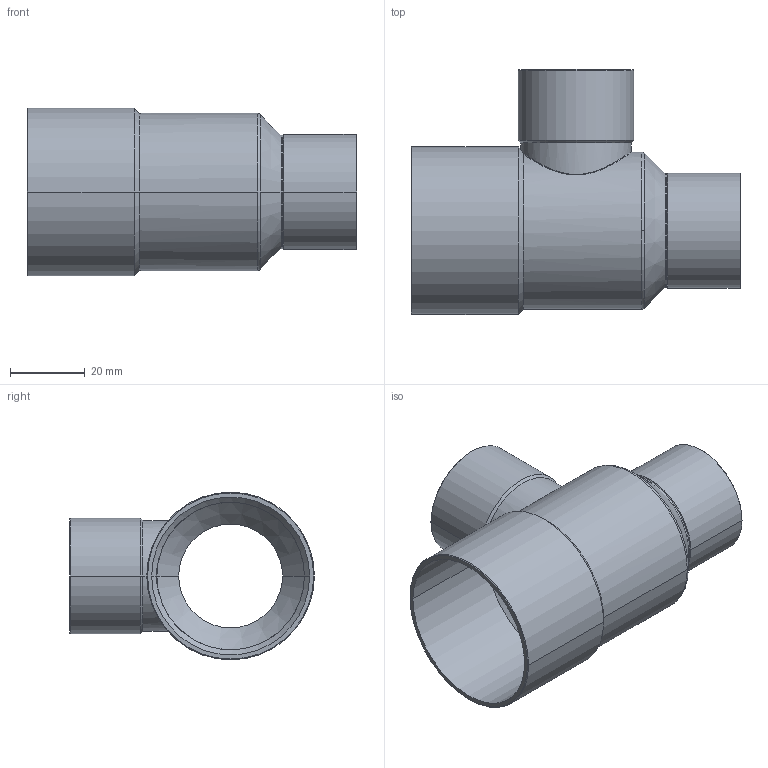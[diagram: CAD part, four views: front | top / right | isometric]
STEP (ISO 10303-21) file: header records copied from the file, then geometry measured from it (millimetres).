
FILE_DESCRIPTION((''),'2;1');
FILE_NAME('G:\Technics\CAD\Bauteile\15130\15130422828.stp','2005-11-03T13:43:05',('boden'),(''),'Autodesk Inventor 8','Autodesk Inventor 8','');
FILE_SCHEMA(('AUTOMOTIVE_DESIGN { 1 0 10303 214 1 1 1 1 }'));
Length unit declared in the file: millimetre
Products named in the file (1): 15130422828
Bounding box: 88 x 65.38 x 44.75 mm (x, y, z)
Volume: 16595.2 mm3; surface area: 25694.8 mm2
Topology: 1 solids, 1 shells, 57 faces, 129 edges, 73 vertices
Faces by surface type: cone 26, cylinder 24, plane 3, torus 2, bspline 2
Entity records: 2095 total; most frequent: CARTESIAN_POINT 787, DIRECTION 288, ORIENTED_EDGE 258, EDGE_CURVE 129, AXIS2_PLACEMENT_3D 119, VERTEX_POINT 73, CIRCLE 63, EDGE_LOOP 60
